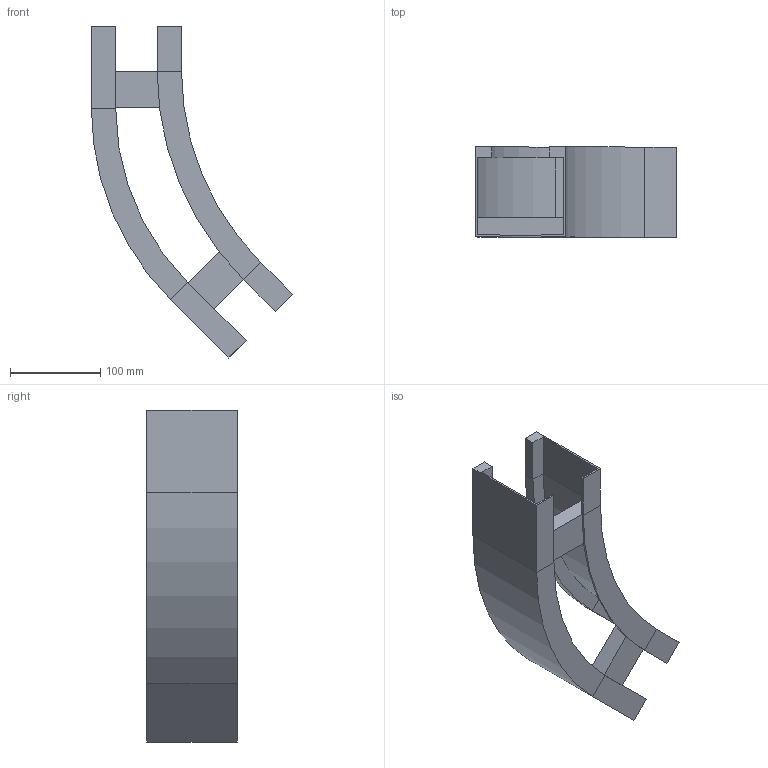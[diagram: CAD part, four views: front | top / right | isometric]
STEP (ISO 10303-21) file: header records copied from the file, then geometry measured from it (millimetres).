
FILE_DESCRIPTION (( 'STEP AP214' ), '1' );
FILE_NAME ('B2_11B3D100.step', '2025-02-21T15:12:46', ( '' ), ( '' ), 'SwSTEP 2.0', 'SolidWorks 2023', '' );
FILE_SCHEMA (( 'AUTOMOTIVE_DESIGN' ));
Length unit declared in the file: millimetre
Products named in the file (4): TRAVERSINO_100; B2_11B3D100; B2_LONGH.INTERNO 45°_H100_R300; B2_LONGH.ESTERNO 45°_H100_R300+100
Assembly tree (4 placements, depth 2):
  B2_11B3D100
    B2_LONGH.INTERNO 45°_H100_R300
    B2_LONGH.ESTERNO 45°_H100_R300+100
    TRAVERSINO_100  x2
Bounding box: 223.22 x 100 x 368.2 mm (x, y, z)
Volume: 488824.1 mm3; surface area: 243907.3 mm2
Topology: 4 solids, 4 shells, 64 faces, 136 edges, 80 vertices
Faces by surface type: plane 56, cylinder 8
Entity records: 1637 total; most frequent: DIRECTION 270, CARTESIAN_POINT 261, ORIENTED_EDGE 248, EDGE_CURVE 124, VECTOR 108, LINE 108, AXIS2_PLACEMENT_3D 81, VERTEX_POINT 72
